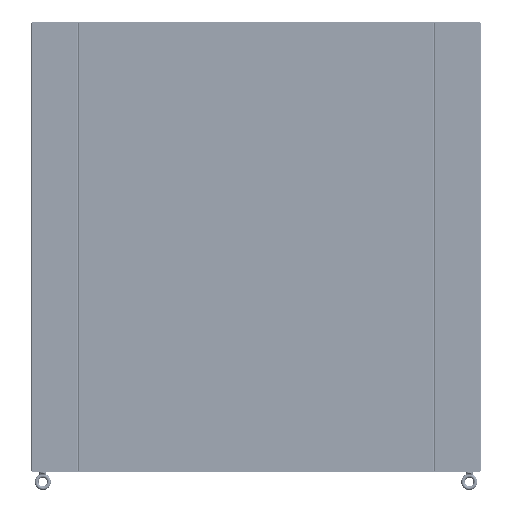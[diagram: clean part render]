
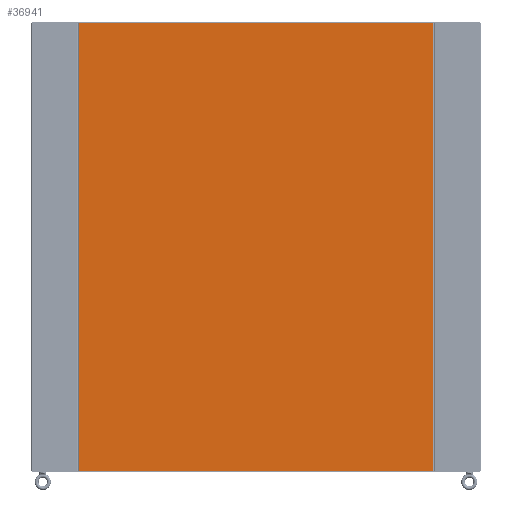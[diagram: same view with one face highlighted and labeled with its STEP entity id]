
A CAD part, left-side view. The second image highlights one B-rep face of the part: STEP entity #36941.
In plain terms, the highlighted planar face has unit normal (-1, 0, 0) as drawn and (0, 0, -1) by its records, which use the part's own axes.
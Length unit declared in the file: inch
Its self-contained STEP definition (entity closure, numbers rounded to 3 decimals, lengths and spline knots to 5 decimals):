
#35962=DIRECTION('',(0.,-1.,0.));
#35963=VECTOR('',#35962,71.792);
#35964=CARTESIAN_POINT('',(-28.311,35.896,-0.104));
#35965=LINE('',#35964,#35963);
#36152=DIRECTION('',(0.,1.,0.));
#36153=VECTOR('',#36152,71.792);
#36154=CARTESIAN_POINT('',(28.311,-35.896,-0.104));
#36155=LINE('',#36154,#36153);
#36313=DIRECTION('',(-1.,0.,0.));
#36314=VECTOR('',#36313,56.622);
#36315=CARTESIAN_POINT('',(28.311,35.896,-0.104));
#36316=LINE('',#36315,#36314);
#36320=DIRECTION('',(1.,0.,0.));
#36321=VECTOR('',#36320,56.622);
#36322=CARTESIAN_POINT('',(-28.311,-35.896,-0.104));
#36323=LINE('',#36322,#36321);
#36331=CARTESIAN_POINT('',(-28.311,-35.896,-0.104));
#36332=VERTEX_POINT('',#36331);
#36333=CARTESIAN_POINT('',(-28.311,35.896,-0.104));
#36334=VERTEX_POINT('',#36333);
#36347=CARTESIAN_POINT('',(28.311,35.896,-0.104));
#36348=VERTEX_POINT('',#36347);
#36349=CARTESIAN_POINT('',(28.311,-35.896,-0.104));
#36350=VERTEX_POINT('',#36349);
#36930=CARTESIAN_POINT('',(0.,0.,-0.104));
#36931=DIRECTION('',(0.,0.,1.));
#36932=DIRECTION('',(1.,0.,0.));
#36933=AXIS2_PLACEMENT_3D('',#36930,#36931,#36932);
#36934=PLANE('',#36933);
#36935=ORIENTED_EDGE('',*,*,#36422,.T.);
#36936=ORIENTED_EDGE('',*,*,#36467,.T.);
#36937=ORIENTED_EDGE('',*,*,#36681,.T.);
#36938=ORIENTED_EDGE('',*,*,#36725,.T.);
#36939=EDGE_LOOP('',(#36935,#36936,#36937,#36938));
#36940=FACE_OUTER_BOUND('',#36939,.F.);
#36422=EDGE_CURVE('',#36348,#36334,#36316,.T.);
#36467=EDGE_CURVE('',#36334,#36332,#35965,.T.);
#36681=EDGE_CURVE('',#36332,#36350,#36323,.T.);
#36725=EDGE_CURVE('',#36350,#36348,#36155,.T.);
#36941=ADVANCED_FACE('',(#36940),#36934,.F.);
